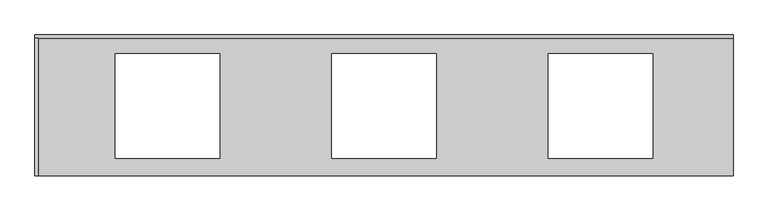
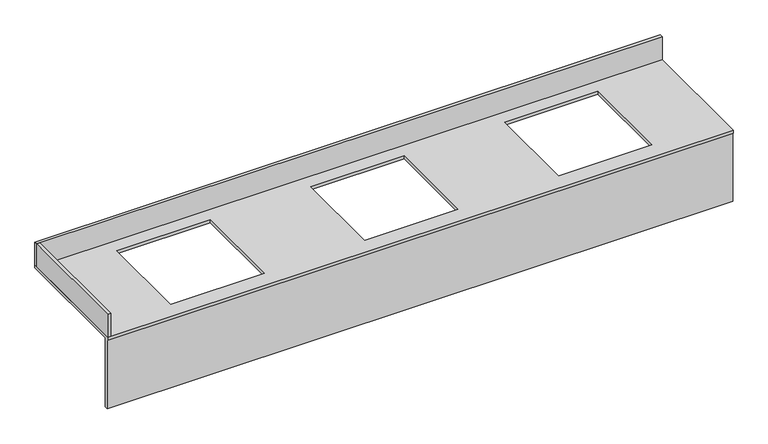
"""IFC4 building model written with IfcOpenShell, lengths in millimetres: furniture geometry, Vanity-Compact Laminate-Duracube-Inset Basin 520 : Basins with Splashback."""

import ifcopenshell
import ifcopenshell.guid

model = None  # the IFC model being written
_history = None  # IfcOwnerHistory: only IFC2X3 demands one
_inside = {}  # id of a spatial element -> (the spatial element, [elements in it])
_under = {}  # id of a project, library or spatial element -> (it, [spatial elements below it])
_declared = {}  # id of a project -> (the project, [libraries it declares])
_typed = {}  # id of a type object -> (the type object, [elements of that type])
_made_of = {}  # id of a material, layer set ... -> (it, [elements and type objects made of it])


def new_model(schema):
    """Start an empty IFC model of exactly this schema.

    Asked for "IFC4X3", IfcOpenShell would pick the latest addendum, in which some entities
    have other attributes; the version numbers below select the first issue.
    IFC2X3 requires an IfcOwnerHistory on every rooted entity: one is made here for all.
    """
    global model, _history
    if schema == "IFC4X3":
        model = ifcopenshell.file(schema_version=(4, 3, 0, 0))
    else:
        model = ifcopenshell.file(schema=schema)
    _inside.clear()
    _under.clear()
    _declared.clear()
    _typed.clear()
    _made_of.clear()
    _history = None
    if model.schema == "IFC2X3":
        org = make("IfcOrganization", Name="unknown")
        user = make(
            "IfcPersonAndOrganization",
            ThePerson=make("IfcPerson", FamilyName="unknown"),
            TheOrganization=org,
        )
        app = make(
            "IfcApplication",
            ApplicationDeveloper=org,
            Version="unknown",
            ApplicationFullName="unknown",
            ApplicationIdentifier="unknown",
        )
        _history = make(
            "IfcOwnerHistory",
            OwningUser=user,
            OwningApplication=app,
            ChangeAction="ADDED",
            CreationDate=0,
        )
    return model


def make(cls, **values):
    """One entity of the class cls with the attributes given. An attribute that is None is left unset."""
    return model.create_entity(
        cls, **{name: value for name, value in values.items() if value is not None}
    )


def rooted(cls, **values):
    """An entity with a GlobalId (a new one), such as an element, a storey or a relation."""
    return make(cls, GlobalId=ifcopenshell.guid.new(), OwnerHistory=_history, **values)


def si_unit(unit_type, name, prefix=None):
    """IfcSIUnit, for example si_unit("LENGTHUNIT", "METRE", prefix="MILLI")."""
    return make("IfcSIUnit", UnitType=unit_type, Prefix=prefix, Name=name)


def assignment(units):
    """IfcUnitAssignment: the units of a project."""
    return None if units is None else make("IfcUnitAssignment", Units=units)


def point(xyz):
    """IfcCartesianPoint."""
    return None if xyz is None else make("IfcCartesianPoint", Coordinates=xyz)


def direction(xyz):
    """IfcDirection."""
    return None if xyz is None else make("IfcDirection", DirectionRatios=xyz)


def frame(location, z_axis=None, x_axis=None):
    """IfcAxis2Placement3D, a coordinate frame: its origin and axes. An axis left out is left unset."""
    return make(
        "IfcAxis2Placement3D",
        Location=point(location),
        Axis=direction(z_axis),
        RefDirection=direction(x_axis),
    )


def origin():
    """The frame at (0, 0, 0) with its axes left unset."""
    return frame((0.0, 0.0, 0.0))


def place(relative_to, where):
    """IfcLocalPlacement: puts the frame where relative to a parent placement (None: the world)."""
    return make(
        "IfcLocalPlacement", PlacementRelTo=relative_to, RelativePlacement=where
    )


def context(
    kind, dimensions, precision=None, world=None, true_north=None, identifier=None
):
    """IfcGeometricRepresentationContext, for example the 3D "Model" context."""
    return make(
        "IfcGeometricRepresentationContext",
        ContextIdentifier=identifier,
        ContextType=kind,
        CoordinateSpaceDimension=dimensions,
        Precision=precision,
        WorldCoordinateSystem=world,
        TrueNorth=true_north,
    )


def project(units=None, contexts=None):
    """IfcProject with its units and contexts."""
    return rooted(
        "IfcProject",
        Name="project",
        RepresentationContexts=contexts,
        UnitsInContext=assignment(units),
    )


def spatial(cls, under=None, at=None, **own):
    """A site, building, storey or space (cls), placed at a placement, below another one or the project."""
    s = rooted(cls, ObjectPlacement=at, **own)
    if under is not None:
        _under.setdefault(under.id(), (under, []))[1].append(s)
    return s


def polyline(points):
    """IfcPolyline through the points."""
    return make("IfcPolyline", Points=[point(p) for p in points])


def outline(outer, holes=None, kind="AREA"):
    """IfcArbitraryClosedProfileDef: a profile drawn as a closed curve; with holes, ...WithVoids."""
    if holes is None:
        return make("IfcArbitraryClosedProfileDef", ProfileType=kind, OuterCurve=outer)
    return make(
        "IfcArbitraryProfileDefWithVoids",
        ProfileType=kind,
        OuterCurve=outer,
        InnerCurves=holes,
    )


def extrude(swept, where, along, depth):
    """IfcExtrudedAreaSolid: the profile swept, set in the frame where, extruded along a direction by depth."""
    return make(
        "IfcExtrudedAreaSolid",
        SweptArea=swept,
        Position=where,
        ExtrudedDirection=direction(along),
        Depth=depth,
    )


def faces_of(points, faces, orient=None, outer=None):
    """IfcFace entities. A face is a list of loops; a loop is a list of indices into points, from 0.

    orient and outer hold one flag for each loop. By default every Orientation is true, the
    first loop of a face is its IfcFaceOuterBound and the others are IfcFaceBound.
    """
    made = []
    for i, loops in enumerate(faces):
        bounds = []
        for j, loop in enumerate(loops):
            is_outer = j == 0 if outer is None else outer[i][j]
            bounds.append(
                make(
                    "IfcFaceOuterBound" if is_outer else "IfcFaceBound",
                    Bound=make("IfcPolyLoop", Polygon=[points[k] for k in loop]),
                    Orientation=True if orient is None else orient[i][j],
                )
            )
        made.append(make("IfcFace", Bounds=bounds))
    return made


def faceted_brep(points, faces, orient=None, outer=None, voids=None):
    """IfcFacetedBrep: a solid bounded by flat faces; with voids (closed shells), ...WithVoids."""
    shared = [point(p) for p in points]
    hull = make("IfcClosedShell", CfsFaces=faces_of(shared, faces, orient, outer))
    if voids is None:
        return make("IfcFacetedBrep", Outer=hull)
    return make(
        "IfcFacetedBrepWithVoids",
        Outer=hull,
        Voids=[
            make(cls, CfsFaces=faces_of(shared, fs, o, b)) for cls, fs, o, b in voids
        ],
    )


def shape(context_of_items, identifier, shape_type, items):
    """IfcShapeRepresentation: the items that make up one representation, for example the "Body"."""
    return make(
        "IfcShapeRepresentation",
        ContextOfItems=context_of_items,
        RepresentationIdentifier=identifier,
        RepresentationType=shape_type,
        Items=items,
    )


def source(mapping_origin, context_of_items, identifier, shape_type, items):
    """IfcRepresentationMap: a shape defined once, which mapped items show again and again."""
    return make(
        "IfcRepresentationMap",
        MappingOrigin=mapping_origin,
        MappedRepresentation=shape(context_of_items, identifier, shape_type, items),
    )


def transform(
    local_origin,
    x_axis=None,
    y_axis=None,
    z_axis=None,
    scale=None,
    scale2=None,
    scale3=None,
    uniform=True,
):
    """IfcCartesianTransformationOperator3D, or its non-uniform kind. x_axis, y_axis, z_axis: its Axis1, 2, 3."""
    if uniform:
        return make(
            "IfcCartesianTransformationOperator3D",
            Axis1=direction(x_axis),
            Axis2=direction(y_axis),
            LocalOrigin=point(local_origin),
            Scale=scale,
            Axis3=direction(z_axis),
        )
    return make(
        "IfcCartesianTransformationOperator3DnonUniform",
        Axis1=direction(x_axis),
        Axis2=direction(y_axis),
        LocalOrigin=point(local_origin),
        Scale=scale,
        Axis3=direction(z_axis),
        Scale2=scale2,
        Scale3=scale3,
    )


def mapped(mapping_source, mapping_target):
    """IfcMappedItem: shows the shape of a source again, moved by a transform."""
    return make(
        "IfcMappedItem", MappingSource=mapping_source, MappingTarget=mapping_target
    )


def made_of(thing, what):
    """Note that an element or type object is made of a material, layer set ...; save() writes the relation."""
    if what is not None:
        _made_of.setdefault(what.id(), (what, []))[1].append(thing)
    return thing


def element(
    cls,
    number,
    at=None,
    inside=None,
    cuts=None,
    type_object=None,
    material=None,
    context=None,
    identifier="Body",
    shape_type=None,
    held_by="IfcProductDefinitionShape",
    body=None,
    shapes=None,
    **own,
):
    """One element of the class cls, such as IfcWall. Its Tag is "e" and its number.

    at: its placement. inside: the storey or other place that contains it. cuts: it is an
    opening in that element (IfcRelVoidsElement). A single representation is given by context,
    identifier, shape_type and body (its items); several are given by shapes. held_by: the class
    of the entity that holds the representations. save() writes the other relations.
    """
    e = rooted(cls, Tag="e%d" % number, ObjectPlacement=at, **own)
    if body is not None:
        shapes = [shape(context, identifier, shape_type, body)]
    if shapes is not None:
        e.Representation = make(held_by, Representations=shapes)
    if inside is not None:
        _inside.setdefault(inside.id(), (inside, []))[1].append(e)
    if cuts is not None:
        rooted(
            "IfcRelVoidsElement", RelatingBuildingElement=cuts, RelatedOpeningElement=e
        )
    if type_object is not None:
        _typed.setdefault(type_object.id(), (type_object, []))[1].append(e)
    return made_of(e, material)


def aggregate(whole, parts):
    """IfcRelAggregates: a whole, such as a stair, and the parts it consists of."""
    return rooted("IfcRelAggregates", RelatingObject=whole, RelatedObjects=parts)


def save(model, path):
    """Write the relations noted so far, then the file.

    IfcRelAggregates (storeys below a building ...), IfcRelContainedInSpatialStructure (elements
    in a storey), IfcRelDefinesByType, IfcRelAssociatesMaterial and IfcRelDeclares: one each for
    every whole, place, type object, material and project.
    """
    for whole, parts in _under.values():
        aggregate(whole, parts)
    for where, things in _inside.values():
        rooted(
            "IfcRelContainedInSpatialStructure",
            RelatedElements=things,
            RelatingStructure=where,
        )
    for kind, things in _typed.values():
        rooted("IfcRelDefinesByType", RelatedObjects=things, RelatingType=kind)
    for what, things in _made_of.values():
        rooted("IfcRelAssociatesMaterial", RelatedObjects=things, RelatingMaterial=what)
    for by, libraries in _declared.values():
        rooted("IfcRelDeclares", RelatingContext=by, RelatedDefinitions=libraries)
    model.write(path)


def furniture_59d763fb(model_context):
    return source(origin(), model_context, "Body", "SolidModel", [
        extrude(outline(polyline([(13.0, -13.0), (13.0, -520.0), (0.0, -520.0), (0.0, -13.0), (13.0, -13.0)])), frame((0.0, 0.0, 850.0), z_axis=(0.0, 0.0, 1.0), x_axis=(1.0, 0.0, 0.0)), (0.0, 0.0, 1.0), 100.0),
        extrude(outline(polyline([(2580.0, 0.0), (2580.0, -13.0), (0.0, -13.0), (0.0, 0.0), (2580.0, 0.0)])), frame((0.0, 0.0, 850.0), z_axis=(0.0, 0.0, 1.0), x_axis=(1.0, 0.0, 0.0)), (0.0, 0.0, 1.0), 100.0),
        faceted_brep([(0.0, -520.0, 850.0), (2580.0, -520.0, 850.0), (2580.0, 0.0, 850.0), (0.0, 0.0, 850.0), (1897.5, -455.0, 850.0), (1897.5, -70.0, 850.0), (2282.5, -70.0, 850.0), (2282.5, -455.0, 850.0), (297.5, -70.0, 850.0), (682.5, -70.0, 850.0), (682.5, -455.0, 850.0), (297.5, -455.0, 850.0), (1097.5, -70.0, 850.0), (1482.5, -70.0, 850.0), (1482.5, -455.0, 850.0), (1097.5, -455.0, 850.0), (0.0, -503.5, 537.0), (2580.0, -503.5, 537.0), (2580.0, -516.5, 537.0), (0.0, -516.5, 537.0), (0.0, -520.0, 837.0), (2580.0, -520.0, 837.0), (2580.0, -516.5, 837.0), (2580.0, -503.5, 837.0), (2580.0, 0.0, 837.0), (0.0, 0.0, 837.0), (0.0, -503.5, 837.0), (0.0, -516.5, 837.0), (1897.5, -70.0, 837.0), (1897.5, -455.0, 837.0), (2282.5, -455.0, 837.0), (2282.5, -70.0, 837.0), (682.5, -70.0, 837.0), (297.5, -70.0, 837.0), (297.5, -455.0, 837.0), (682.5, -455.0, 837.0), (1482.5, -70.0, 837.0), (1097.5, -70.0, 837.0), (1097.5, -455.0, 837.0), (1482.5, -455.0, 837.0)], [[[0, 1, 2, 3], [4, 5, 6, 7], [8, 9, 10, 11], [12, 13, 14, 15]], [[16, 17, 18, 19]], [[1, 0, 20, 21]], [[2, 1, 21, 22, 18, 17, 23, 24]], [[3, 2, 24, 25]], [[0, 3, 25, 26, 16, 19, 27, 20]], [[23, 26, 25, 24], [28, 29, 30, 31], [32, 33, 34, 35], [36, 37, 38, 39]], [[26, 23, 17, 16]], [[5, 4, 29, 28]], [[4, 7, 30, 29]], [[7, 6, 31, 30]], [[6, 5, 28, 31]], [[27, 22, 21, 20]], [[22, 27, 19, 18]], [[9, 8, 33, 32]], [[8, 11, 34, 33]], [[11, 10, 35, 34]], [[10, 9, 32, 35]], [[13, 12, 37, 36]], [[12, 15, 38, 37]], [[15, 14, 39, 38]], [[14, 13, 36, 39]]]),
    ])


if __name__ == "__main__":
    model = new_model("IFC4")
    model_context = context("Model", 3, world=origin())
    ifc_project = project(units=[si_unit("LENGTHUNIT", "METRE", prefix="MILLI")], contexts=[model_context])
    site = spatial("IfcSite", under=ifc_project)
    building = spatial("IfcBuilding", under=site)
    placement = place(None, origin())
    furniture_shape = furniture_59d763fb(model_context)
    element("IfcFurniture", 1, ObjectType="Vanity-Compact Laminate-Duracube-Inset Basin 520 : Basins with Splashback", at=placement, inside=building, context=model_context, shape_type="MappedRepresentation", body=[
        mapped(furniture_shape, transform((0.0, 0.0, 0.0), x_axis=(1.0, 0.0, 0.0), y_axis=(0.0, 1.0, 0.0), z_axis=(0.0, 0.0, 1.0))),
    ])
    save(model, "model.ifc")
